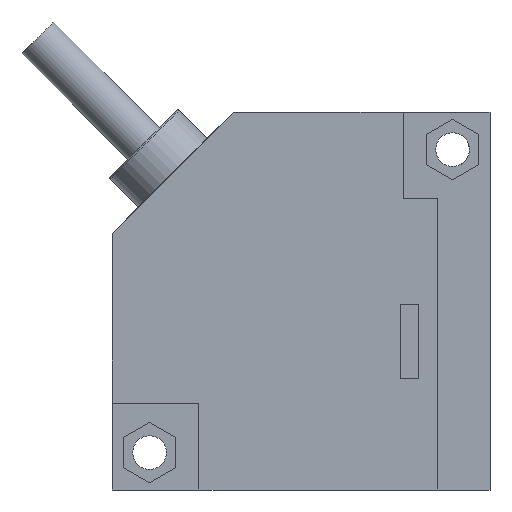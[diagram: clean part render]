
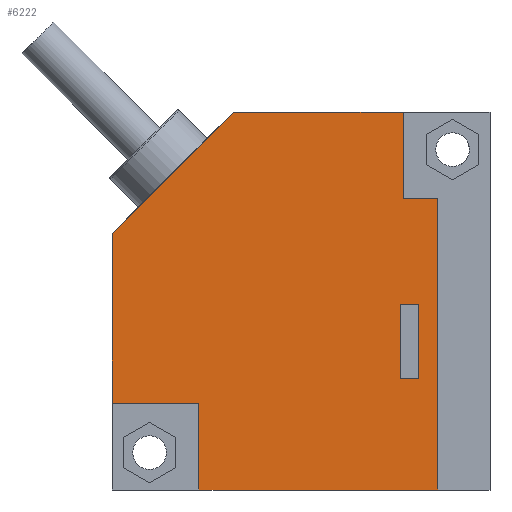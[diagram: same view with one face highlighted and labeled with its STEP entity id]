
A CAD part, front view. The second image highlights one B-rep face of the part: STEP entity #6222.
In plain terms, the highlighted planar face has unit normal (0, -1, 0) as drawn and (0, 1, 0) by its records, which use the part's own axes.
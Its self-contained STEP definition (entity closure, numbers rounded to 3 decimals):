
#5979=DIRECTION('',(-1.,0.,0.));
#5980=VECTOR('',#5979,11.6);
#5981=CARTESIAN_POINT('',(-13.65,9.05,13.65));
#5982=LINE('',#5981,#5980);
#5983=DIRECTION('',(0.,0.,-1.));
#5984=VECTOR('',#5983,22.7);
#5985=CARTESIAN_POINT('',(-25.25,9.05,13.65));
#5986=LINE('',#5985,#5984);
#5987=DIRECTION('',(0.707,0.,-0.707));
#5988=VECTOR('',#5987,22.91);
#5989=CARTESIAN_POINT('',(-25.25,9.05,-9.05));
#5990=LINE('',#5989,#5988);
#5991=DIRECTION('',(1.,0.,0.));
#5992=VECTOR('',#5991,22.7);
#5993=CARTESIAN_POINT('',(-9.05,9.05,-25.25));
#5994=LINE('',#5993,#5992);
#5995=DIRECTION('',(0.,0.,1.));
#5996=VECTOR('',#5995,11.6);
#5997=CARTESIAN_POINT('',(13.65,9.05,-25.25));
#5998=LINE('',#5997,#5996);
#5999=DIRECTION('',(1.,0.,0.));
#6000=VECTOR('',#5999,4.6);
#6001=CARTESIAN_POINT('',(13.65,9.05,-13.65));
#6002=LINE('',#6001,#6000);
#6003=DIRECTION('',(0.,0.,1.));
#6004=VECTOR('',#6003,38.9);
#6005=CARTESIAN_POINT('',(18.25,9.05,-13.65));
#6006=LINE('',#6005,#6004);
#6007=DIRECTION('',(-1.,0.,0.));
#6008=VECTOR('',#6007,31.9);
#6009=CARTESIAN_POINT('',(18.25,9.05,25.25));
#6010=LINE('',#6009,#6008);
#6011=DIRECTION('',(0.,0.,-1.));
#6012=VECTOR('',#6011,11.6);
#6013=CARTESIAN_POINT('',(-13.65,9.05,25.25));
#6014=LINE('',#6013,#6012);
#6015=DIRECTION('',(0.,0.,1.));
#6016=VECTOR('',#6015,10.);
#6017=CARTESIAN_POINT('',(15.75,9.05,0.4));
#6018=LINE('',#6017,#6016);
#6019=DIRECTION('',(1.,0.,0.));
#6020=VECTOR('',#6019,2.5);
#6021=CARTESIAN_POINT('',(13.25,9.05,0.4));
#6022=LINE('',#6021,#6020);
#6023=DIRECTION('',(0.,0.,-1.));
#6024=VECTOR('',#6023,10.);
#6025=CARTESIAN_POINT('',(13.25,9.05,10.4));
#6026=LINE('',#6025,#6024);
#6027=DIRECTION('',(-1.,0.,0.));
#6028=VECTOR('',#6027,2.5);
#6029=CARTESIAN_POINT('',(15.75,9.05,10.4));
#6030=LINE('',#6029,#6028);
#6135=CARTESIAN_POINT('',(-13.65,9.05,13.65));
#6136=CARTESIAN_POINT('',(-25.25,9.05,13.65));
#6137=VERTEX_POINT('',#6135);
#6138=VERTEX_POINT('',#6136);
#6139=CARTESIAN_POINT('',(-25.25,9.05,-9.05));
#6140=VERTEX_POINT('',#6139);
#6141=CARTESIAN_POINT('',(-9.05,9.05,-25.25));
#6142=VERTEX_POINT('',#6141);
#6143=CARTESIAN_POINT('',(13.65,9.05,-25.25));
#6144=VERTEX_POINT('',#6143);
#6145=CARTESIAN_POINT('',(13.65,9.05,-13.65));
#6146=VERTEX_POINT('',#6145);
#6147=CARTESIAN_POINT('',(18.25,9.05,-13.65));
#6148=VERTEX_POINT('',#6147);
#6149=CARTESIAN_POINT('',(18.25,9.05,25.25));
#6150=VERTEX_POINT('',#6149);
#6151=CARTESIAN_POINT('',(-13.65,9.05,25.25));
#6152=VERTEX_POINT('',#6151);
#6179=CARTESIAN_POINT('',(15.75,9.05,0.4));
#6180=CARTESIAN_POINT('',(15.75,9.05,10.4));
#6181=VERTEX_POINT('',#6179);
#6182=VERTEX_POINT('',#6180);
#6183=CARTESIAN_POINT('',(13.25,9.05,10.4));
#6184=VERTEX_POINT('',#6183);
#6185=CARTESIAN_POINT('',(13.25,9.05,0.4));
#6186=VERTEX_POINT('',#6185);
#6187=CARTESIAN_POINT('',(0.,9.05,0.));
#6188=DIRECTION('',(0.,-1.,0.));
#6189=DIRECTION('',(1.,0.,0.));
#6190=AXIS2_PLACEMENT_3D('',#6187,#6188,#6189);
#6191=PLANE('',#6190);
#6193=ORIENTED_EDGE('',*,*,#6192,.T.);
#6195=ORIENTED_EDGE('',*,*,#6194,.T.);
#6197=ORIENTED_EDGE('',*,*,#6196,.T.);
#6199=ORIENTED_EDGE('',*,*,#6198,.T.);
#6201=ORIENTED_EDGE('',*,*,#6200,.T.);
#6203=ORIENTED_EDGE('',*,*,#6202,.T.);
#6205=ORIENTED_EDGE('',*,*,#6204,.T.);
#6207=ORIENTED_EDGE('',*,*,#6206,.T.);
#6209=ORIENTED_EDGE('',*,*,#6208,.T.);
#6210=EDGE_LOOP('',(#6193,#6195,#6197,#6199,#6201,#6203,#6205,#6207,#6209));
#6211=FACE_OUTER_BOUND('',#6210,.F.);
#6213=ORIENTED_EDGE('',*,*,#6212,.F.);
#6215=ORIENTED_EDGE('',*,*,#6214,.F.);
#6217=ORIENTED_EDGE('',*,*,#6216,.F.);
#6219=ORIENTED_EDGE('',*,*,#6218,.F.);
#6220=EDGE_LOOP('',(#6213,#6215,#6217,#6219));
#6221=FACE_BOUND('',#6220,.F.);
#6222=ADVANCED_FACE('',(#6211,#6221),#6191,.F.);
#6192=EDGE_CURVE('',#6137,#6138,#5982,.T.);
#6194=EDGE_CURVE('',#6138,#6140,#5986,.T.);
#6196=EDGE_CURVE('',#6140,#6142,#5990,.T.);
#6198=EDGE_CURVE('',#6142,#6144,#5994,.T.);
#6200=EDGE_CURVE('',#6144,#6146,#5998,.T.);
#6202=EDGE_CURVE('',#6146,#6148,#6002,.T.);
#6204=EDGE_CURVE('',#6148,#6150,#6006,.T.);
#6206=EDGE_CURVE('',#6150,#6152,#6010,.T.);
#6208=EDGE_CURVE('',#6152,#6137,#6014,.T.);
#6212=EDGE_CURVE('',#6181,#6182,#6018,.T.);
#6214=EDGE_CURVE('',#6186,#6181,#6022,.T.);
#6216=EDGE_CURVE('',#6184,#6186,#6026,.T.);
#6218=EDGE_CURVE('',#6182,#6184,#6030,.T.);
